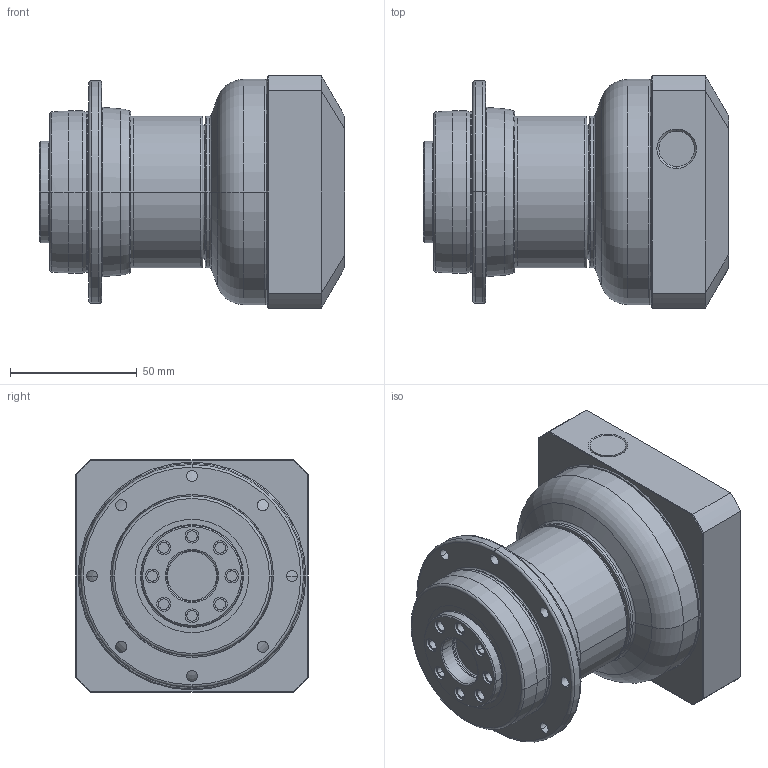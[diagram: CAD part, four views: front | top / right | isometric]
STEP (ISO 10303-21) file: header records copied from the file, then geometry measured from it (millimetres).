
FILE_DESCRIPTION((''),'2;1');
FILE_NAME('PD064_2ST_19-P0411400101_ASM','2016-06-03T',('d01943'),(''),'PRO/ENGINEER BY PARAMETRIC TECHNOLOGY CORPORATION, 2008410','PRO/ENGINEER BY PARAMETRIC TECHNOLOGY CORPORATION, 2008410','');
FILE_SCHEMA(('CONFIG_CONTROL_DESIGN'));
Length unit declared in the file: millimetre
Products named in the file (8): P1355200001; P0367200001; P0275200001; P1324200301; P0411400101; P0503400008; P0941203001; PD064_2ST_19-P0411400101_ASM
Assembly tree (7 placements, depth 2):
  PD064_2ST_19-P0411400101_ASM
    P1355200001
    P0367200001
    P0275200001
    P1324200301
    P0411400101
    P0503400008
    P0941203001
Bounding box: 120.5 x 92 x 92 mm (x, y, z)
Volume: 518293.4 mm3; surface area: 105825.5 mm2
Topology: 7 solids, 7 shells, 388 faces, 878 edges, 520 vertices
Faces by surface type: cylinder 137, cone 90, torus 80, plane 67, bspline 14
Entity records: 15592 total; most frequent: CARTESIAN_POINT 6567, DIRECTION 2041, ORIENTED_EDGE 1720, AXIS2_PLACEMENT_3D 881, EDGE_CURVE 860, VERTEX_POINT 520, CIRCLE 492, EDGE_LOOP 464
